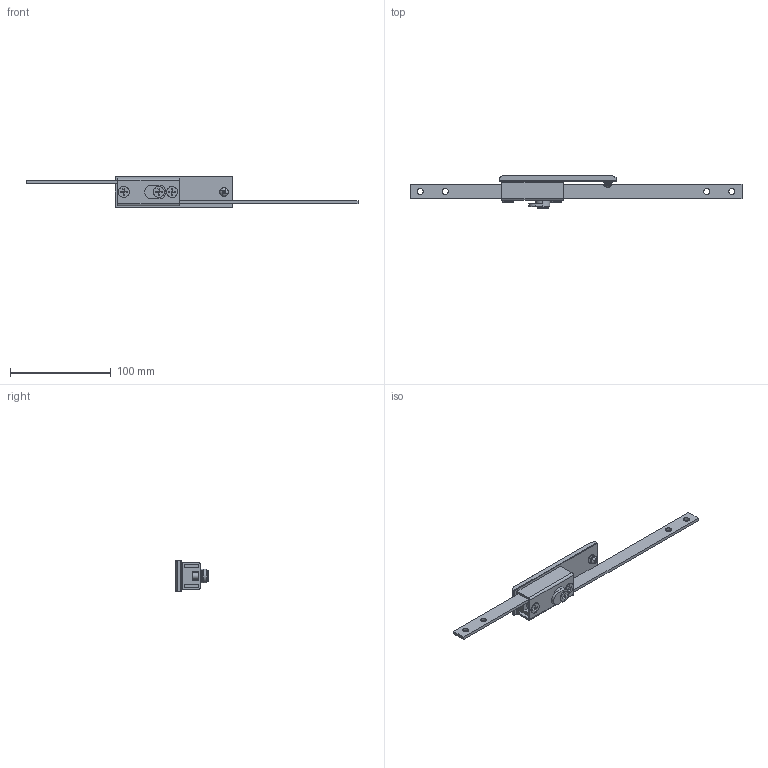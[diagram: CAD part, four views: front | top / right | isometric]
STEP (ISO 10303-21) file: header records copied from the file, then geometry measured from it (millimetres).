
FILE_DESCRIPTION (( 'STEP AP214' ), '1' );
FILE_NAME ('CUYUE.MS821.STEP', '2026-07-10T06:00:21', ( '' ), ( '' ), 'SwSTEP 2.0', 'SolidWorks 2020', '' );
FILE_SCHEMA (( 'AUTOMOTIVE_DESIGN' ));
Length unit declared in the file: millimetre
Products named in the file (9): M4x20郪磁蹟隊; cross recessed countersunk head screws gb1_GB_CROSS_SCREWS_TYPE4 M6X10-6.7  H type-N; CUYUE.MS821; M4菜え; 坶极; M4粟菜; 坶极-砎蝶菜; M4x20坋趼埴芛蹟隊; 坶裝
Assembly tree (10 placements, depth 3):
  CUYUE.MS821
    坶极
    cross recessed countersunk head screws gb1_GB_CROSS_SCREWS_TYPE4 M6X10-6.7  H type-N  x3
    M4x20郪磁蹟隊
      M4粟菜
      M4x20坋趼埴芛蹟隊
      M4菜え
    坶极-砎蝶菜
    坶裝
Bounding box: 330 x 33.2 x 30 mm (x, y, z)
Volume: 60109.6 mm3; surface area: 41440.3 mm2
Topology: 14 solids, 14 shells, 298 faces, 747 edges, 484 vertices
Faces by surface type: plane 140, cylinder 131, cone 10, bspline 10, sphere 5, torus 2
Entity records: 13449 total; most frequent: CARTESIAN_POINT 7242, ORIENTED_EDGE 1232, DIRECTION 1140, EDGE_CURVE 616, VERTEX_POINT 402, AXIS2_PLACEMENT_3D 400, VECTOR 340, LINE 340
